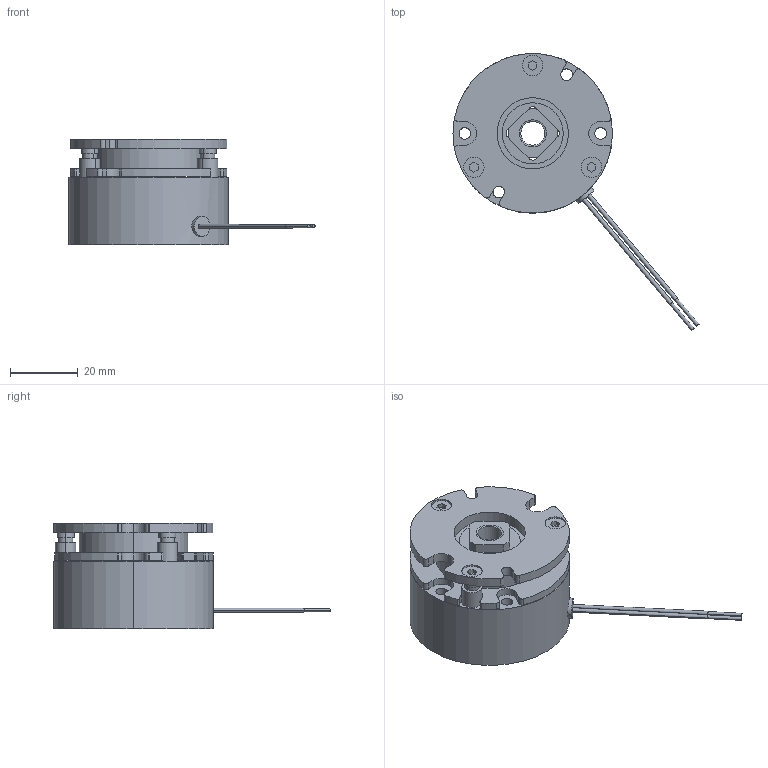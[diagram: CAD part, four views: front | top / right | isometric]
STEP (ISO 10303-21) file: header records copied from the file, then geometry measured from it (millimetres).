
FILE_DESCRIPTION (( 'STEP AP214' ), '1' );
FILE_NAME ('BXW-02-10H-7.STEP', '2017-06-12T00:43:36', ( 'MIKI' ), ( '' ), 'SwSTEP 2.0', 'SolidWorks 2012', '' );
FILE_SCHEMA (( 'AUTOMOTIVE_DESIGN' ));
Length unit declared in the file: millimetre
Products named in the file (1): BXW-02-10H-7
Bounding box: 72.5 x 81.5 x 31.2 mm (x, y, z)
Volume: 41688.2 mm3; surface area: 16420.1 mm2
Topology: 1 solids, 1 shells, 259 faces, 671 edges, 436 vertices
Faces by surface type: cylinder 139, plane 104, cone 16
Entity records: 11084 total; most frequent: CARTESIAN_POINT 1599, DIRECTION 1449, ORIENTED_EDGE 1334, EDGE_CURVE 667, AXIS2_PLACEMENT_3D 540, VERTEX_POINT 436, LINE 369, VECTOR 369
